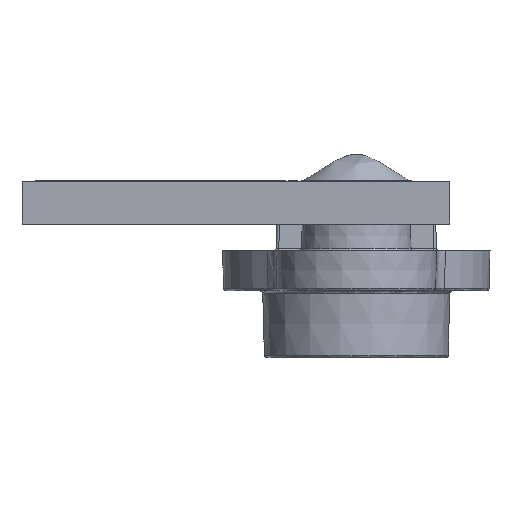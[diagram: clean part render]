
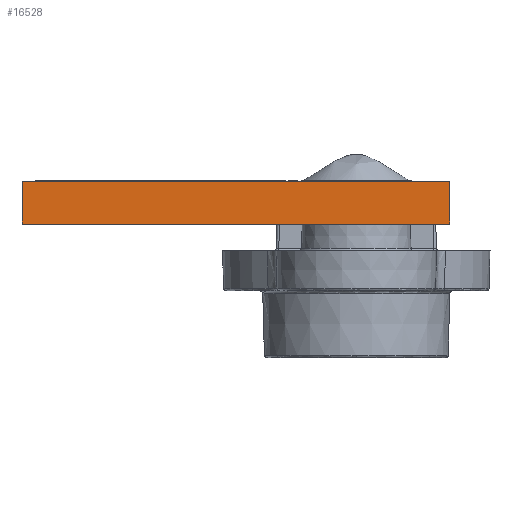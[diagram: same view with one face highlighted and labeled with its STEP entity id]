
A CAD part, left-side view. The second image highlights one B-rep face of the part: STEP entity #16528.
In plain terms, the highlighted planar face has unit normal (-1, 0, 0) as drawn and (1, 0, 0) by its records, which use the part's own axes.
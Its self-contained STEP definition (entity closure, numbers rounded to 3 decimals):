
#447 = PLANE ( 'NONE',  #6262 ) ;
#1072 = EDGE_CURVE ( 'NONE', #14265, #13550, #20815, .T. ) ;
#1107 = VERTEX_POINT ( 'NONE', #9890 ) ;
#1525 = LINE ( 'NONE', #7420, #2020 ) ;
#2020 = VECTOR ( 'NONE', #13150, 1000. ) ;
#3905 = CARTESIAN_POINT ( 'NONE',  ( 10.5, 0., 0. ) ) ;
#4308 = EDGE_CURVE ( 'NONE', #6298, #13550, #1525, .T. ) ;
#4416 = DIRECTION ( 'NONE',  ( -1., 0., 0. ) ) ;
#5570 = VECTOR ( 'NONE', #11211, 1000. ) ;
#6005 = EDGE_LOOP ( 'NONE', ( #9032, #10838, #17028, #19839 ) ) ;
#6262 = AXIS2_PLACEMENT_3D ( 'NONE', #10528, #4416, #12202 ) ;
#6298 = VERTEX_POINT ( 'NONE', #21921 ) ;
#7317 = EDGE_CURVE ( 'NONE', #14265, #1107, #20553, .T. ) ;
#7420 = CARTESIAN_POINT ( 'NONE',  ( 10.5, 1.6, 8. ) ) ;
#9032 = ORIENTED_EDGE ( 'NONE', *, *, #7317, .T. ) ;
#9076 = VECTOR ( 'NONE', #13211, 1000. ) ;
#9890 = CARTESIAN_POINT ( 'NONE',  ( 10.5, 1.6, -8. ) ) ;
#10105 = CARTESIAN_POINT ( 'NONE',  ( 10.5, 0., -8. ) ) ;
#10528 = CARTESIAN_POINT ( 'NONE',  ( 10.5, 1.6, 8. ) ) ;
#10693 = LINE ( 'NONE', #24761, #5570 ) ;
#10838 = ORIENTED_EDGE ( 'NONE', *, *, #11854, .F. ) ;
#11211 = DIRECTION ( 'NONE',  ( 0., 0., -1. ) ) ;
#11854 = EDGE_CURVE ( 'NONE', #6298, #1107, #10693, .T. ) ;
#12202 = DIRECTION ( 'NONE',  ( 0., 0., 1. ) ) ;
#13150 = DIRECTION ( 'NONE',  ( 0., -1., 0. ) ) ;
#13211 = DIRECTION ( 'NONE',  ( 0., 0., 1. ) ) ;
#13550 = VERTEX_POINT ( 'NONE', #20764 ) ;
#14265 = VERTEX_POINT ( 'NONE', #10105 ) ;
#14729 = DIRECTION ( 'NONE',  ( 0., 1., 0. ) ) ;
#14862 = CARTESIAN_POINT ( 'NONE',  ( 10.5, 1.6, -8. ) ) ;
#16528 = ADVANCED_FACE ( 'NONE', ( #20417 ), #447, .F. ) ;
#17028 = ORIENTED_EDGE ( 'NONE', *, *, #4308, .T. ) ;
#19839 = ORIENTED_EDGE ( 'NONE', *, *, #1072, .F. ) ;
#20417 = FACE_OUTER_BOUND ( 'NONE', #6005, .T. ) ;
#20553 = LINE ( 'NONE', #14862, #21321 ) ;
#20764 = CARTESIAN_POINT ( 'NONE',  ( 10.5, 0., 8. ) ) ;
#20815 = LINE ( 'NONE', #3905, #9076 ) ;
#21321 = VECTOR ( 'NONE', #14729, 1000. ) ;
#21921 = CARTESIAN_POINT ( 'NONE',  ( 10.5, 1.6, 8. ) ) ;
#24761 = CARTESIAN_POINT ( 'NONE',  ( 10.5, 1.6, 8. ) ) ;
